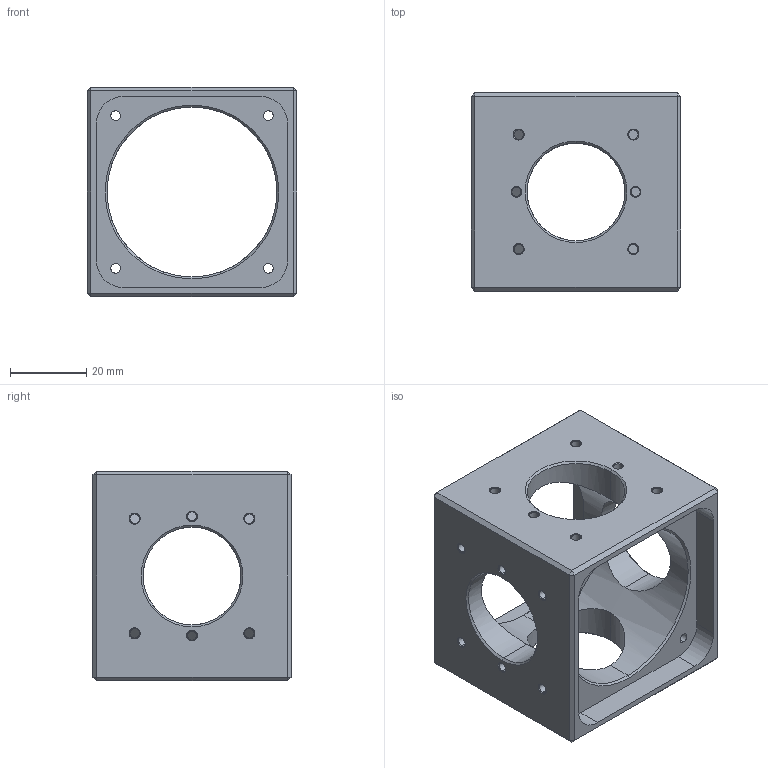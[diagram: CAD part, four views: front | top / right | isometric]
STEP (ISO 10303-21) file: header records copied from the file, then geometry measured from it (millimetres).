
FILE_DESCRIPTION (( 'STEP AP203' ), '1' );
FILE_NAME ('CSC1-M3.STEP', '2023-11-24T04:54:17', ( '' ), ( '' ), 'SwSTEP 2.0', 'SolidWorks 2021', '' );
FILE_SCHEMA (( 'CONFIG_CONTROL_DESIGN' ));
Length unit declared in the file: millimetre
Products named in the file (1): CSC1-M3
Bounding box: 55 x 52 x 55 mm (x, y, z)
Surface area: 21156.6 mm2 (no closed solid volume)
Topology: 0 solids, 8 shells, 212 faces, 911 edges, 706 vertices
Faces by surface type: cylinder 82, plane 63, cone 60, bspline 7
Entity records: 11527 total; most frequent: CARTESIAN_POINT 4175, DIRECTION 1431, ORIENTED_EDGE 1330, EDGE_CURVE 911, VERTEX_POINT 706, VECTOR 587, LINE 587, AXIS2_PLACEMENT_3D 422
